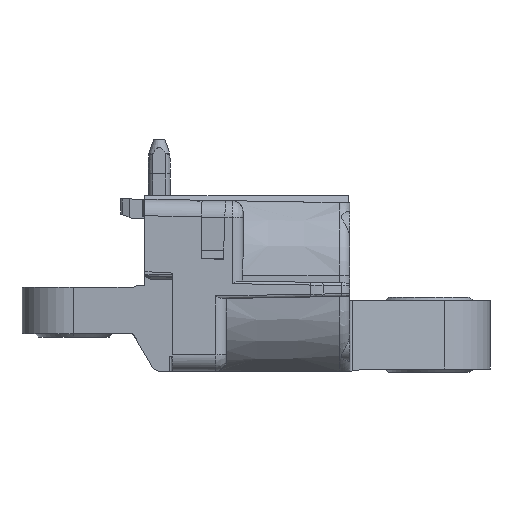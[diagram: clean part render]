
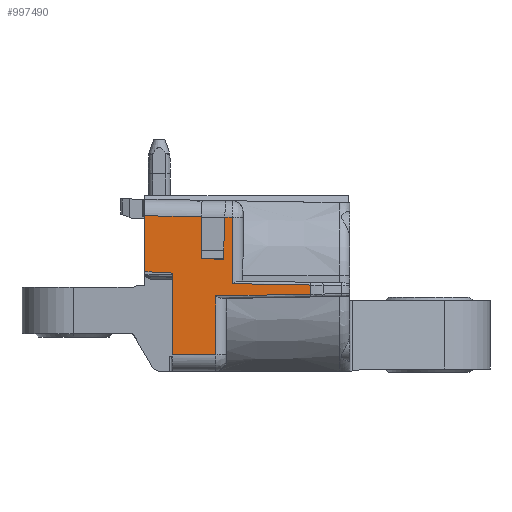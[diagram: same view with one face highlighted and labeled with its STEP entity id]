
A CAD part, left-side view. The second image highlights one B-rep face of the part: STEP entity #997490.
In plain terms, the highlighted planar face has unit normal (-1, -0.018, 0) as drawn and (1, 0, -0.017) by its records, which use the part's own axes.
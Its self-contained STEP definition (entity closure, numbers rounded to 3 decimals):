
#75580=CARTESIAN_POINT('',(1.055,6.068,
-5.423));
#75590=VERTEX_POINT('',#75580);
#75640=CARTESIAN_POINT('',(1.121,6.134,
-1.613));
#75650=DIRECTION('',(0.017,0.017,
1.));
#75660=VECTOR('',#75650,1.);
#75670=LINE('',#75640,#75660);
#75680=CARTESIAN_POINT('',(1.179,6.192,
1.687));
#75690=VERTEX_POINT('',#75680);
#75700=EDGE_CURVE('',#75590,#75690,#75670,.T.);
#121910=CARTESIAN_POINT('',(1.193,8.377,
2.491));
#121920=VERTEX_POINT('',#121910);
#122010=CARTESIAN_POINT('',(1.192,9.237,
2.461));
#122020=VERTEX_POINT('',#122010);
#122050=CARTESIAN_POINT('',(1.198,0.,2.784));
#122060=DIRECTION('',(0.001,-0.999,
0.035));
#122070=VECTOR('',#122060,1.);
#122080=LINE('',#122050,#122070);
#122090=EDGE_CURVE('',#122020,#121920,#122080,.T.);
#265450=CARTESIAN_POINT('',(1.228,8.49,
4.512));
#265460=VERTEX_POINT('',#265450);
#280580=CARTESIAN_POINT('',(1.055,5.232,
-5.423));
#280590=VERTEX_POINT('',#280580);
#280920=CARTESIAN_POINT('',(1.205,5.082,
3.187));
#280930=VERTEX_POINT('',#280920);
#280960=CARTESIAN_POINT('',(1.13,5.157,
-1.113));
#280970=DIRECTION('',(-0.017,0.017,
-1.));
#280980=VECTOR('',#280970,1.);
#280990=LINE('',#280960,#280980);
#281000=EDGE_CURVE('',#280930,#280590,#280990,.T.);
#399490=CARTESIAN_POINT('',(1.273,0.,7.105));
#399500=DIRECTION('',(0.,1.,0.));
#399510=VECTOR('',#399500,1.);
#399520=LINE('',#399490,#399510);
#399530=CARTESIAN_POINT('',(1.273,-0.25,
7.105));
#399540=VERTEX_POINT('',#399530);
#399550=CARTESIAN_POINT('',(1.273,7.15,
7.105));
#399560=VERTEX_POINT('',#399550);
#399570=EDGE_CURVE('',#399540,#399560,#399520,.T.);
#414160=CARTESIAN_POINT('',(1.149,8.237,0.));
#414170=DIRECTION('',(0.017,0.056,
0.998));
#414180=VECTOR('',#414170,1.);
#414190=LINE('',#414160,#414180);
#414200=EDGE_CURVE('',#121920,#265460,#414190,.T.);
#602110=CARTESIAN_POINT('',(1.055,0.,-5.423));
#602120=DIRECTION('',(0.,1.,0.));
#602130=VECTOR('',#602120,1.);
#602140=LINE('',#602110,#602130);
#602150=EDGE_CURVE('',#280590,#75590,#602140,.T.);
#687360=CARTESIAN_POINT('',(1.205,-0.25,
3.187));
#687370=VERTEX_POINT('',#687360);
#719950=CARTESIAN_POINT('',(1.317,12.35,
9.605));
#719960=VERTEX_POINT('',#719950);
#719990=CARTESIAN_POINT('',(1.317,0.,9.605));
#720000=DIRECTION('',(0.,1.,0.));
#720010=VECTOR('',#720000,1.);
#720020=LINE('',#719990,#720010);
#720030=CARTESIAN_POINT('',(1.317,7.281,
9.605));
#720040=VERTEX_POINT('',#720030);
#720050=EDGE_CURVE('',#720040,#719960,#720020,.T.);
#742410=CARTESIAN_POINT('',(1.205,0.,3.187));
#742420=DIRECTION('',(0.,1.,0.));
#742430=VECTOR('',#742420,1.);
#742440=LINE('',#742410,#742430);
#742450=EDGE_CURVE('',#687370,#280930,#742440,.T.);
#751040=CARTESIAN_POINT('',(1.191,12.224,
2.357));
#751050=VERTEX_POINT('',#751040);
#852540=CARTESIAN_POINT('',(1.136,12.169,
-0.752));
#852550=DIRECTION('',(0.017,0.017,
1.));
#852560=VECTOR('',#852550,1.);
#852570=LINE('',#852540,#852560);
#852580=CARTESIAN_POINT('',(1.179,12.212,
1.687));
#852590=VERTEX_POINT('',#852580);
#852600=EDGE_CURVE('',#852590,#751050,#852570,.T.);
#861620=CARTESIAN_POINT('',(1.149,-0.25,
-0.026));
#861630=DIRECTION('',(-0.017,0.,
-1.));
#861640=VECTOR('',#861630,1.);
#861650=LINE('',#861620,#861640);
#861660=EDGE_CURVE('',#399540,#687370,#861650,.T.);
#899400=CARTESIAN_POINT('',(1.149,6.778,0.));
#899410=DIRECTION('',(0.017,0.052,
0.998));
#899420=VECTOR('',#899410,1.);
#899430=LINE('',#899400,#899420);
#899440=EDGE_CURVE('',#399560,#720040,#899430,.T.);
#951180=EDGE_CURVE('',#751050,#122020,#122080,.T.);
#965050=CARTESIAN_POINT('',(1.228,12.261,
4.512));
#965060=VERTEX_POINT('',#965050);
#965090=CARTESIAN_POINT('',(1.318,12.351,
9.654));
#965100=DIRECTION('',(-0.017,-0.017,
-1.));
#965110=VECTOR('',#965100,1.);
#965120=LINE('',#965090,#965110);
#965130=EDGE_CURVE('',#719960,#965060,#965120,.T.);
#989150=CARTESIAN_POINT('',(1.179,0.,1.687));
#989160=DIRECTION('',(0.,-1.,0.));
#989170=VECTOR('',#989160,1.);
#989180=LINE('',#989150,#989170);
#989190=EDGE_CURVE('',#852590,#75690,#989180,.T.);
#997220=CARTESIAN_POINT('',(1.323,-0.606,
9.945));
#997230=DIRECTION('',(1.,0.,-0.017));
#997240=DIRECTION('',(-0.017,0.,-1.));
#997250=AXIS2_PLACEMENT_3D('',#997220,#997230,#997240);
#997260=PLANE('',#997250);
#997270=ORIENTED_EDGE('',*,*,#75700,.T.);
#997280=ORIENTED_EDGE('',*,*,#602150,.T.);
#997290=ORIENTED_EDGE('',*,*,#281000,.T.);
#997300=ORIENTED_EDGE('',*,*,#742450,.T.);
#997310=ORIENTED_EDGE('',*,*,#861660,.T.);
#997320=ORIENTED_EDGE('',*,*,#399570,.F.);
#997330=ORIENTED_EDGE('',*,*,#899440,.F.);
#997340=ORIENTED_EDGE('',*,*,#720050,.F.);
#997350=ORIENTED_EDGE('',*,*,#965130,.F.);
#997360=CARTESIAN_POINT('',(1.228,0.,4.512));
#997370=DIRECTION('',(0.,1.,0.));
#997380=VECTOR('',#997370,1.);
#997390=LINE('',#997360,#997380);
#997400=EDGE_CURVE('',#265460,#965060,#997390,.T.);
#997410=ORIENTED_EDGE('',*,*,#997400,.T.);
#997420=ORIENTED_EDGE('',*,*,#414200,.T.);
#997430=ORIENTED_EDGE('',*,*,#122090,.T.);
#997440=ORIENTED_EDGE('',*,*,#951180,.T.);
#997450=ORIENTED_EDGE('',*,*,#852600,.T.);
#997460=ORIENTED_EDGE('',*,*,#989190,.F.);
#997470=EDGE_LOOP('',(#997460,#997450,#997440,#997430,#997420,#997410,
#997350,#997340,#997330,#997320,#997310,#997300,#997290,#997280,#997270)
);
#997480=FACE_OUTER_BOUND('',#997470,.T.);
#997490=ADVANCED_FACE('',(#997480),#997260,.T.);
